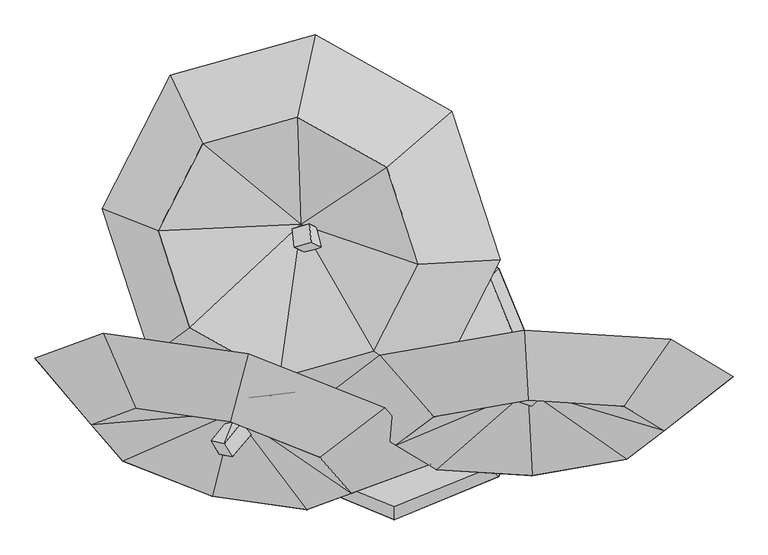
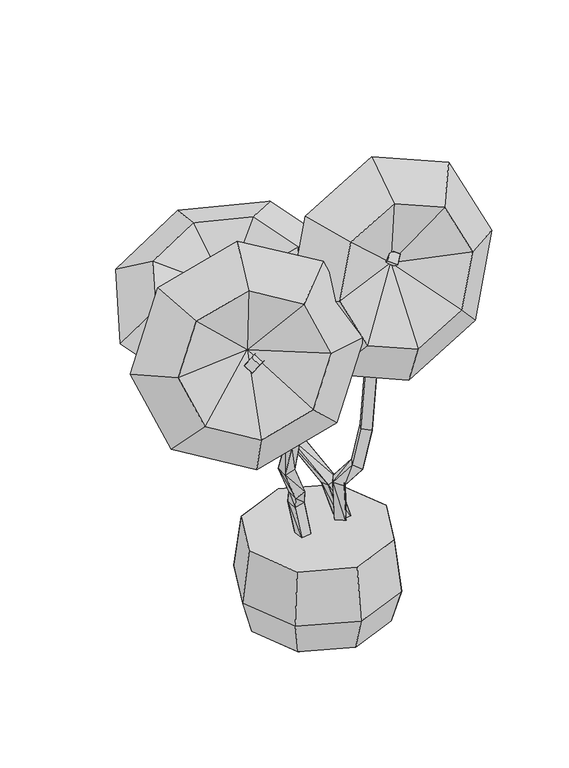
"""IFC4 building model written with IfcOpenShell, lengths in millimetres: geographic element geometry, Enscape AssetDefinition - Potted Plant 016 Tree Aeonium : Enscape AssetDefinition - Potted Plant 016 Tree Aeonium."""

from ifc_helpers import new_model, si_unit, origin, place, context, project, spatial, triangles, source, transform, mapped, element, save


def geographic_element_dcf1581d(model_context):
    return source(origin(), model_context, "Body", "Tessellation", [
        triangles([(140.7999268, -0.0200001, -0.5820039), (12.06708, -128.7528605, -0.5820039), (103.0956784, -91.0476039, -0.5820039), (197.3133014, -185.2662352, 81.812539), (222.9744713, -210.9273869, 213.1924012), (197.3133014, 185.225213, 81.812539), (274.0448097, -0.0200001, 81.812539), (12.06708, -298.287952, 213.1924012), (-180.488202, -192.5762541, 423.745792), (12.06708, -261.9967079, 81.812539), (-260.2477049, -0.0200001, 423.745792), (-198.8393166, -210.9273869, 213.1924012), (-173.1781285, -185.2662352, 81.812539), (-180.488202, 192.5352864, 423.745792), (-198.8393166, 210.8863828, 213.1924012), (-249.909655, -0.0200001, 81.812539), (-286.1998999, -0.0200001, 213.1924012), (-78.9605237, -91.0476039, -0.5820039), (-116.664763, -0.0200001, -0.5820039), (-78.9605237, 91.0076082, -0.5820039), (12.06708, 128.7128466, -0.5820039), (12.06708, 261.9567212, 81.812539), (-173.1781285, 185.225213, 81.812539), (103.0956784, 91.0076082, -0.5820039), (222.9744713, 210.8863828, 213.1924012), (204.6233567, 192.5352864, 423.745792), (12.06708, 298.246948, 213.1924012), (12.06708, 272.2947893, 423.745792), (12.06708, -272.3357934, 423.745792), (204.6233567, -192.5762541, 423.745792), (284.3828778, -0.0200001, 423.745792), (310.3350546, -0.0200001, 213.1924012), (94.6726279, 37.0952444, 593.5249274), (108.0537061, 48.2073182, 412.2107039), (129.8058668, 17.8511179, 577.9448101), (73.3964829, 2.7560179, 593.6589309), (142.0559275, 27.1391797, 412.2107039), (121.1857988, -6.545043, 406.7536606), (108.5297127, -16.4881083, 578.0777962), (87.1825782, 14.5230961, 406.7536606), (134.5748889, -23.7901563, 662.3013617), (153.4050077, 11.3540762, 658.7843525), (186.5852317, 10.9980716, 797.0992384), (184.9412187, -7.0620468, 639.4052301), (166.1110999, -42.2052772, 642.9222393), (168.0461198, -24.291159, 800.8172527), (301.5900033, 41.6932718, 1396.428281), (267.0447464, 61.064405, 1403.1941471), (281.7798572, 5.8910393, 1392.4692204), (221.3474449, -8.0650532, 790.926214), (202.8083512, -43.3542896, 794.6442284), (247.2346365, 25.2621685, 1399.2362492), (288.1808836, -13.61409, 1430.8774864), (275.694818, 30.3631994, 1467.382671), (312.2190602, -46.9193109, 1497.8029072), (309.4250447, 14.7940983, 1451.2576378), (257.0186869, -57.9553787, 1492.2167656), (254.450675, 1.9540128, 1447.0016476), (279.124823, -36.4222409, 1517.6671017), (290.1139233, -68.4534525, 1472.3538792), (144.2989592, 45.3882997, 413.3687365), (104.400686, 74.4114873, 566.3177218), (108.6737173, 34.5942274, 579.0698504), (105.2146988, 39.2912609, 407.427711), (5.4450358, 182.2541915, 743.2528885), (150.463999, 5.8660385, 413.3687365), (-26.4801742, 133.6478924, 738.8288853), (111.3807287, -0.2310015, 407.427711), (66.1114397, 68.4384461, 555.0266596), (70.3844665, 28.6211886, 567.7787519), (-30.0961985, 173.9531539, 726.8657347), (-68.5044532, 113.7347456, 937.5451715), (9.0610601, 141.9499384, 755.2150217), (-72.4644722, 153.8599945, 931.7772097), (-110.3657289, 106.2446959, 933.9711891), (-114.3257524, 146.3699629, 928.2031546), (-29.2661937, 237.0205616, 1146.243552), (-156.2780336, 263.6867392, 1370.4260891), (-24.9521629, 199.7483272, 1160.1306404), (-191.1632589, 253.4366926, 1353.7529789), (-67.0244472, 193.6422682, 1155.9486282), (-71.3394727, 230.9145208, 1142.0625572), (-195.0932698, 290.486902, 1339.197908), (-160.2090437, 300.7379841, 1355.8718903), (-23.0731533, -20.7901372, 407.9857075), (-27.7401831, 18.3421206, 407.9857075), (-37.7802475, 6.1780403, 546.3715919), (-77.3885085, 0.5140034, 540.997574), (-82.2715498, 41.464275, 544.6825599), (-62.7924109, -25.5261672, 407.9857075), (-67.4584415, 13.6050903, 407.9857075), (-42.6632843, 47.1283143, 550.0566504), (-52.0313444, -23.5751576, 613.566037), (-89.4965903, -26.4381755, 599.2379871), (-146.4709651, -52.5723452, 733.1948542), (-152.7600071, -13.7100904, 740.3229074), (-96.5946399, 11.8530783, 609.081972), (-112.2657401, -8.8790581, 748.4088964), (-59.1293895, 14.7170966, 623.4101309), (-105.9766981, -47.7423166, 741.2818605), (-105.3037014, -37.8452508, 868.3116795), (-100.0466549, -71.7204724, 865.533724), (-134.7228904, -75.1574946, 856.402668), (-139.980927, -41.2822731, 859.1817135), (-152.9110153, -73.8264848, 977.9264277), (-186.4672338, -77.6005141, 960.5972528), (-190.212245, -40.4632642, 959.4993547), (-156.6560266, -36.6892395, 976.8283842), (-238.456575, -86.8155766, 1215.4420898), (-275.4618198, -91.1996022, 1200.901989), (-282.3858521, -51.6613407, 1206.6299824), (-245.3806073, -47.2773105, 1221.1690659), (-257.7546885, -101.8316658, 1283.5204926), (-291.3139227, -103.2886808, 1259.3912968), (-342.6222917, -165.5430749, 1298.5996593), (-303.6850063, -69.1714592, 1278.278516), (-359.1343652, -138.8099229, 1319.9506817), (-333.0951842, -144.3679503, 1347.0478649), (-270.125772, -67.7144442, 1302.4075665), (-316.5831107, -171.1011296, 1325.6966972), (558.7486708, -117.9677721, 1464.2917259), (482.0812211, -176.135161, 1279.4184174), (580.3648295, -97.6406426, 1155.5016352), (476.1411404, -68.5974526, 1649.1638718), (281.4888684, -35.9572347, 1464.2917259), (282.6478819, -56.945375, 1725.7404476), (697.829571, -8.5210568, 1438.7493896), (571.2647309, 67.1204397, 1721.9972168), (274.8087892, 84.9725568, 1839.3220322), (91.6156016, -89.8365859, 1649.1638718), (-17.8761186, 34.5792279, 1721.9972168), (14.9480985, -148.004983, 1464.2917259), (291.0479324, -209.0263764, 1202.8419868), (-135.3409032, -54.5413611, 1438.7493896), (97.555646, -197.3743079, 1279.4184174), (-8.7760575, -130.1818522, 1155.5016352), (287.6788975, -148.0339783, 1038.1768925), (-165.6111122, -278.094835, 1152.2685476), (-139.6019167, -171.5501211, 1521.4338776), (-47.3993143, -234.5565405, 1028.5466663), (90.6675944, -184.1612154, 1312.0386646), (-75.4965001, -245.2026203, 1337.3007854), (-7.5500496, -71.3164636, 1594.1544388), (-511.9223502, -73.1454808, 1519.2639519), (-320.3751031, -100.2816605, 1596.8055851), (-284.5178623, 37.8752499, 1709.6332912), (-577.9918276, 79.4515275, 1590.8305138), (-602.0369442, -106.0376955, 1334.2326588), (-716.0587635, 29.0561911, 1307.3386608), (-313.9330908, -81.6715319, 1335.2528), (-357.157342, -250.9586462, 1074.7281498), (-537.9315548, -179.6901947, 1150.0996393), (-617.8410667, -83.788563, 1025.2237587), (-340.8732342, -192.9802629, 909.7449789), (-221.2314454, -10.5690701, 1327.6837852), (-204.9463384, -123.6328151, 1194.2769573), (-29.684196, 42.6272809, 1390.2872314), (60.4304002, 218.9134365, 1455.4145061), (-178.006195, 299.7909853, 1313.2686768), (88.5275815, -42.129278, 1290.192469), (226.5944901, 227.9635018, 1389.9762039), (-3.6750244, 415.02474, 1484.9157578), (128.3768388, 528.4295185, 1435.1754799), (-184.4482073, 516.0803813, 1461.5086109), (-375.9954726, 462.8830107, 1398.9061821), (-148.5909847, 683.2594574, 1399.3132793), (-466.1100666, 286.596896, 1333.7787621), (-442.0649137, 601.7559657, 1303.397477), (-402.0046409, 90.4855924, 1304.2775105), (-580.1318132, 331.6631859, 1203.6149775), (-481.9141891, 31.1962063, 1158.4155561)], [[155, 171, 156], [155, 169, 171], [169, 170, 171], [169, 155, 159], [169, 167, 170], [167, 168, 170], [167, 169, 159], [167, 165, 168], [165, 166, 168], [165, 167, 159], [165, 164, 166], [164, 163, 166], [164, 165, 159], [164, 162, 163], [162, 161, 163], [162, 164, 159], [162, 158, 161], [158, 160, 161], [158, 162, 159], [157, 156, 160], [157, 155, 156], [158, 157, 160], [155, 157, 159], [157, 158, 159], [151, 153, 154], [151, 152, 153], [152, 149, 153], [152, 151, 150], [152, 148, 149], [148, 147, 149], [148, 152, 150], [148, 144, 147], [144, 146, 147], [144, 148, 150], [144, 145, 146], [145, 143, 146], [145, 144, 150], [145, 139, 143], [139, 141, 143], [139, 145, 150], [139, 142, 141], [142, 140, 141], [142, 139, 150], [138, 154, 140], [138, 151, 154], [142, 138, 140], [151, 138, 150], [138, 142, 150], [133, 136, 137], [133, 135, 136], [135, 134, 136], [135, 133, 125], [135, 132, 134], [132, 131, 134], [132, 135, 125], [132, 130, 131], [130, 129, 131], [130, 132, 125], [130, 126, 129], [126, 128, 129], [126, 130, 125], [126, 124, 128], [124, 127, 128], [124, 126, 125], [124, 121, 127], [121, 123, 127], [121, 124, 125], [122, 137, 123], [122, 133, 137], [121, 122, 123], [133, 122, 125], [122, 121, 125], [117, 120, 118], [117, 115, 120], [119, 118, 120], [116, 118, 119], [116, 117, 118], [114, 117, 116], [114, 115, 117], [119, 120, 113], [113, 115, 114], [113, 120, 115], [112, 119, 113], [111, 119, 112], [111, 116, 119], [110, 116, 111], [110, 114, 116], [112, 113, 109], [109, 114, 110], [109, 113, 114], [108, 112, 109], [107, 112, 108], [107, 111, 112], [106, 111, 107], [106, 110, 111], [108, 109, 105], [105, 110, 106], [105, 109, 110], [101, 108, 105], [104, 108, 101], [104, 107, 108], [103, 107, 104], [103, 106, 107], [101, 105, 102], [102, 106, 103], [102, 105, 106], [98, 101, 102], [96, 101, 98], [96, 104, 101], [95, 104, 96], [95, 103, 104], [98, 102, 100], [100, 103, 95], [100, 102, 103], [99, 98, 100], [97, 98, 99], [97, 96, 98], [94, 96, 97], [94, 95, 96], [99, 100, 93], [93, 95, 94], [93, 100, 95], [92, 99, 93], [91, 92, 86], [89, 99, 92], [89, 97, 99], [91, 89, 92], [90, 89, 91], [88, 97, 89], [88, 94, 97], [90, 88, 89], [92, 93, 87], [87, 94, 88], [87, 93, 94], [86, 92, 87], [86, 87, 85], [85, 88, 90], [85, 87, 88], [80, 84, 83], [80, 78, 84], [82, 83, 84], [81, 83, 82], [81, 80, 83], [79, 80, 81], [79, 78, 80], [82, 84, 77], [77, 78, 79], [77, 84, 78], [76, 82, 77], [75, 82, 76], [75, 81, 82], [72, 81, 75], [72, 79, 81], [76, 77, 74], [74, 79, 72], [74, 77, 79], [71, 76, 74], [67, 76, 71], [67, 75, 76], [73, 75, 67], [73, 72, 75], [71, 74, 65], [65, 72, 73], [65, 74, 72], [69, 71, 65], [68, 69, 64], [70, 71, 69], [70, 67, 71], [68, 70, 69], [66, 70, 68], [63, 67, 70], [63, 73, 67], [66, 63, 70], [69, 65, 62], [62, 73, 63], [62, 65, 73], [64, 69, 62], [64, 62, 61], [61, 63, 66], [61, 62, 63], [60, 59, 57], [60, 55, 59], [58, 57, 59], [53, 57, 58], [53, 60, 57], [56, 60, 53], [56, 55, 60], [58, 59, 54], [54, 55, 56], [54, 59, 55], [52, 58, 54], [49, 58, 52], [49, 53, 58], [47, 53, 49], [47, 56, 53], [52, 54, 48], [48, 56, 47], [48, 54, 56], [46, 52, 48], [51, 52, 46], [51, 49, 52], [50, 49, 51], [50, 47, 49], [46, 48, 43], [43, 47, 50], [43, 48, 47], [41, 46, 43], [45, 46, 41], [45, 51, 46], [44, 51, 45], [44, 50, 51], [41, 43, 42], [42, 50, 44], [42, 43, 50], [36, 41, 42], [38, 36, 40], [39, 41, 36], [39, 45, 41], [38, 39, 36], [37, 39, 38], [35, 45, 39], [35, 44, 45], [37, 35, 39], [36, 42, 33], [33, 44, 35], [33, 42, 44], [40, 36, 33], [40, 33, 34], [34, 35, 37], [34, 33, 35], [32, 31, 30], [29, 30, 31], [15, 14, 28], [29, 28, 14], [29, 26, 28], [29, 31, 26], [6, 25, 32], [25, 31, 32], [25, 26, 31], [15, 28, 27], [27, 26, 25], [27, 28, 26], [22, 25, 6], [22, 27, 25], [24, 22, 6], [1, 24, 6], [24, 21, 22], [21, 24, 1], [23, 27, 22], [23, 15, 27], [21, 23, 22], [21, 20, 23], [1, 20, 21], [1, 19, 20], [1, 18, 19], [16, 15, 23], [20, 16, 23], [20, 19, 16], [18, 10, 13], [19, 13, 16], [19, 18, 13], [13, 17, 16], [16, 17, 15], [17, 14, 15], [17, 11, 14], [29, 14, 11], [10, 12, 13], [13, 12, 17], [12, 11, 17], [12, 9, 11], [11, 9, 29], [10, 8, 12], [8, 9, 12], [8, 29, 9], [32, 30, 5], [5, 29, 8], [5, 30, 29], [7, 32, 5], [6, 32, 7], [1, 6, 7], [7, 5, 4], [4, 8, 10], [4, 5, 8], [2, 4, 10], [18, 2, 10], [1, 2, 18], [3, 7, 4], [3, 1, 7], [2, 3, 4], [1, 3, 2]], closed=False),
    ])


if __name__ == "__main__":
    model = new_model("IFC4")
    model_context = context("Model", 3, world=origin())
    ifc_project = project(units=[si_unit("LENGTHUNIT", "METRE", prefix="MILLI")], contexts=[model_context])
    site = spatial("IfcSite", under=ifc_project)
    building = spatial("IfcBuilding", under=site)
    placement = place(None, origin())
    geographic_element_shape = geographic_element_dcf1581d(model_context)
    element("IfcGeographicElement", 1, ObjectType="Enscape AssetDefinition - Potted Plant 016 Tree Aeonium : Enscape AssetDefinition - Potted Plant 016 Tree Aeonium", at=placement, inside=building, context=model_context, shape_type="MappedRepresentation", body=[
        mapped(geographic_element_shape, transform((0.0, 0.0, 0.0), x_axis=(1.0, 0.0, 0.0), y_axis=(0.0, 1.0, 0.0), z_axis=(0.0, 0.0, 1.0))),
    ])
    save(model, "model.ifc")
